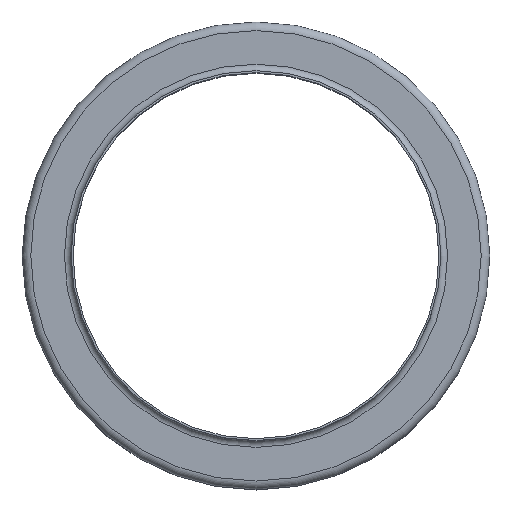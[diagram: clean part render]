
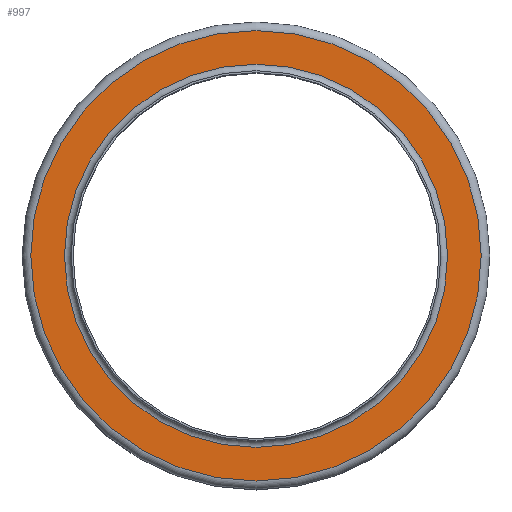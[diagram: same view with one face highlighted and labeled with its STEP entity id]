
A CAD part, top view. The second image highlights one B-rep face of the part: STEP entity #997.
In plain terms, the highlighted planar face has unit normal (0, 0, 1).
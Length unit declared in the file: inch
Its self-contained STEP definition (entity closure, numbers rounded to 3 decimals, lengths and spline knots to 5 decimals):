
#95=FACE_BOUND('',#269,.T.);
#162=FACE_OUTER_BOUND('',#268,.T.);
#268=EDGE_LOOP('',(#769));
#269=EDGE_LOOP('',(#770));
#382=CIRCLE('',#1186,2.35575);
#383=CIRCLE('',#1188,2.76925);
#463=VERTEX_POINT('',#1810);
#464=VERTEX_POINT('',#1814);
#568=EDGE_CURVE('',#463,#463,#382,.T.);
#569=EDGE_CURVE('',#464,#464,#383,.T.);
#769=ORIENTED_EDGE('',*,*,#569,.F.);
#770=ORIENTED_EDGE('',*,*,#568,.T.);
#851=PLANE('',#1187);
#997=ADVANCED_FACE('',(#162,#95),#851,.T.);
#1186=AXIS2_PLACEMENT_3D('',#1812,#1522,#1523);
#1187=AXIS2_PLACEMENT_3D('',#1813,#1524,#1525);
#1188=AXIS2_PLACEMENT_3D('',#1815,#1526,#1527);
#1522=DIRECTION('center_axis',(0.,0.,-1.));
#1523=DIRECTION('ref_axis',(1.,0.,0.));
#1524=DIRECTION('center_axis',(0.,0.,1.));
#1525=DIRECTION('ref_axis',(1.,0.,0.));
#1526=DIRECTION('center_axis',(0.,0.,-1.));
#1527=DIRECTION('ref_axis',(1.,0.,0.));
#1810=CARTESIAN_POINT('',(2.35575,0.,-0.08175));
#1812=CARTESIAN_POINT('Origin',(0.,0.,-0.08175));
#1813=CARTESIAN_POINT('Origin',(0.,2.76925,-0.08175));
#1814=CARTESIAN_POINT('',(2.76925,0.,-0.08175));
#1815=CARTESIAN_POINT('Origin',(0.,0.,-0.08175));
